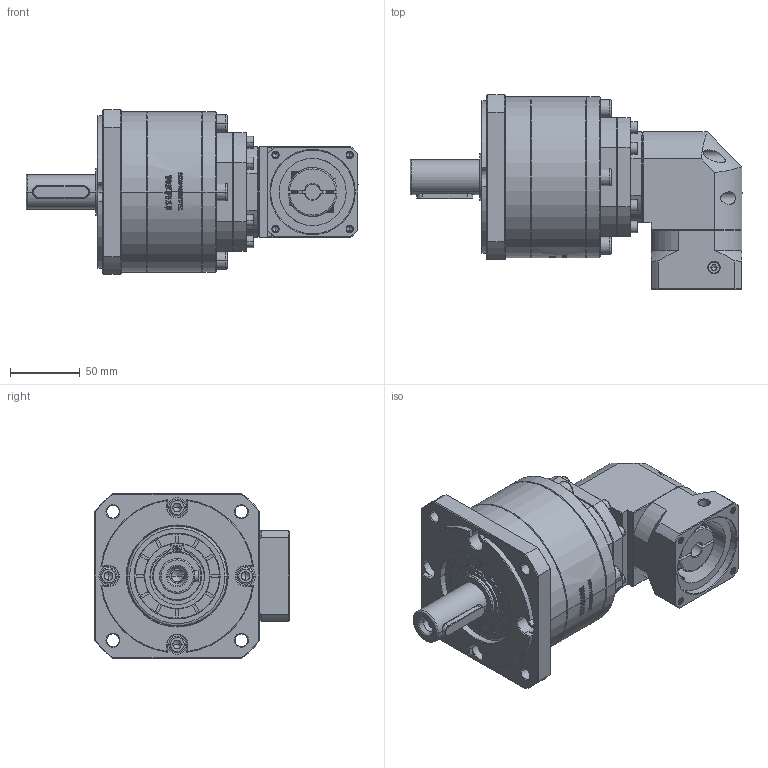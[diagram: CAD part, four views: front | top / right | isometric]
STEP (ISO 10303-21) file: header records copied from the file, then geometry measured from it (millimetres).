
FILE_DESCRIPTION (( 'STEP AP214' ), '1' );
FILE_NAME ('ZFR120A-D25-L3-11-60-75-M5.step', '2023-03-08T14:52:26', ( '' ), ( 'Microsoft' ), 'SwSTEP 2.0', 'SolidWorks 2016', '' );
FILE_SCHEMA (( 'AUTOMOTIVE_DESIGN' ));
Length unit declared in the file: millimetre
Products named in the file (1): ZFR120A-D25-L3-11-60-75-M5
Bounding box: 237.5 x 139.2 x 118 mm (x, y, z)
Volume: 1481917.8 mm3; surface area: 140343 mm2
Topology: 6 solids, 6 shells, 3043 faces, 8051 edges, 5164 vertices
Faces by surface type: plane 1595, bspline 625, cylinder 464, cone 347, torus 12
Entity records: 161977 total; most frequent: CARTESIAN_POINT 59067, ORIENTED_EDGE 15994, DIRECTION 11850, EDGE_CURVE 7997, VERTEX_POINT 5164, VECTOR 5012, LINE 5012, AXIS2_PLACEMENT_3D 3419
